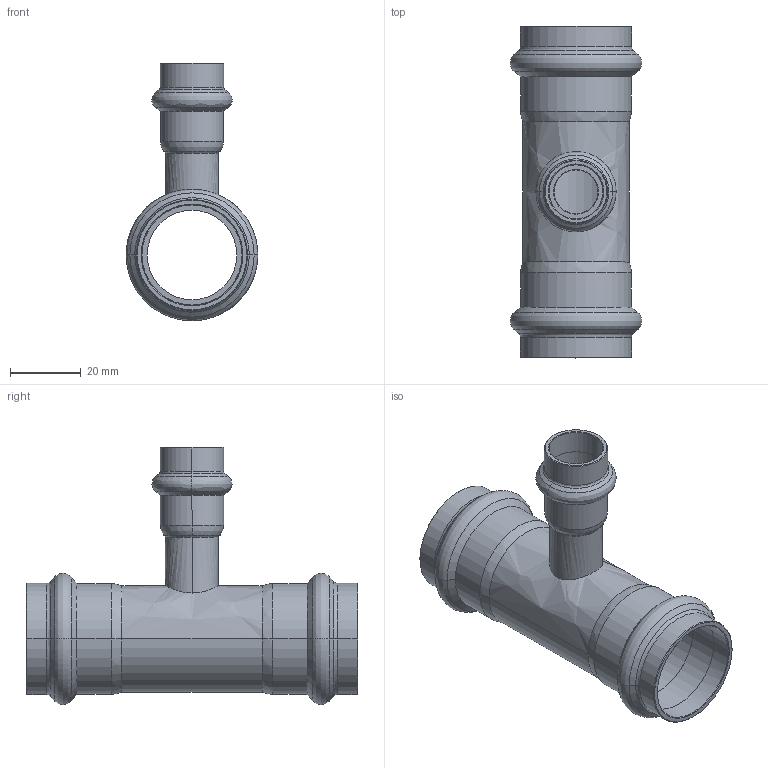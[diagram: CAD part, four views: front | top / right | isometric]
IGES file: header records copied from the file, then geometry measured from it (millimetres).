
Start section: Elysium IGES Interface
Global section: file name: C:\3d modellen sudo\C-Pr VP\SP8130RV\8130RVW281528.igs; native system: CoCreate Modeling 17.00A  17-Jun-2010; preprocessor: CoCreate IGES_3D V2.2; author: Unknown; organization: Unknown; date: 20130131.143821; units: millimetre
Bounding box: 37.2 x 93.81 x 72.78 mm (x, y, z)
Volume: 19437.2 mm3; surface area: 22661.3 mm2
Topology: 1 solids, 1 shells, 124 faces, 260 edges, 146 vertices
Faces by surface type: bspline 124
